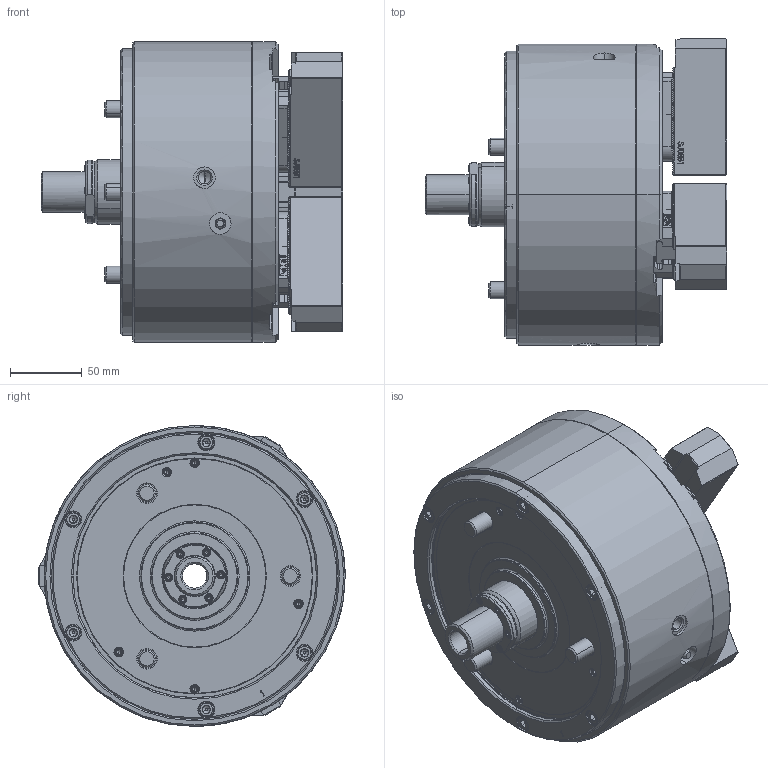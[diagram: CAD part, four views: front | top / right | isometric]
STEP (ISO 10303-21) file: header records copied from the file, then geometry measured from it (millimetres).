
FILE_DESCRIPTION (( 'STEP AP214' ), '1' );
FILE_NAME ('DL208_UC_ID.STEP', '2022-09-07T07:40:11', ( '' ), ( '' ), 'SwSTEP 2.0', 'SolidWorks 2020', '' );
FILE_SCHEMA (( 'AUTOMOTIVE_DESIGN' ));
Length unit declared in the file: millimetre
Products named in the file (5): 61P451466; 結合DL208_UC_ID^DL208; 0030112030; 61P304291; DL208_UC_ID
Assembly tree (13 placements, depth 2):
  DL208_UC_ID
    61P304291  x3
    61P451466  x3
    0030112030  x6
    結合DL208_UC_ID^DL208
Bounding box: 210.5 x 213.76 x 210 mm (x, y, z)
Volume: 3997908.9 mm3; surface area: 329347.7 mm2
Topology: 13 solids, 50 shells, 7385 faces, 20452 edges, 13383 vertices
Faces by surface type: plane 3961, cylinder 1588, bspline 1166, cone 636, torus 34
Entity records: 218380 total; most frequent: CARTESIAN_POINT 81983, ORIENTED_EDGE 31720, DIRECTION 22907, EDGE_CURVE 15860, VERTEX_POINT 10440, VECTOR 10301, LINE 10301, AXIS2_PLACEMENT_3D 6303
